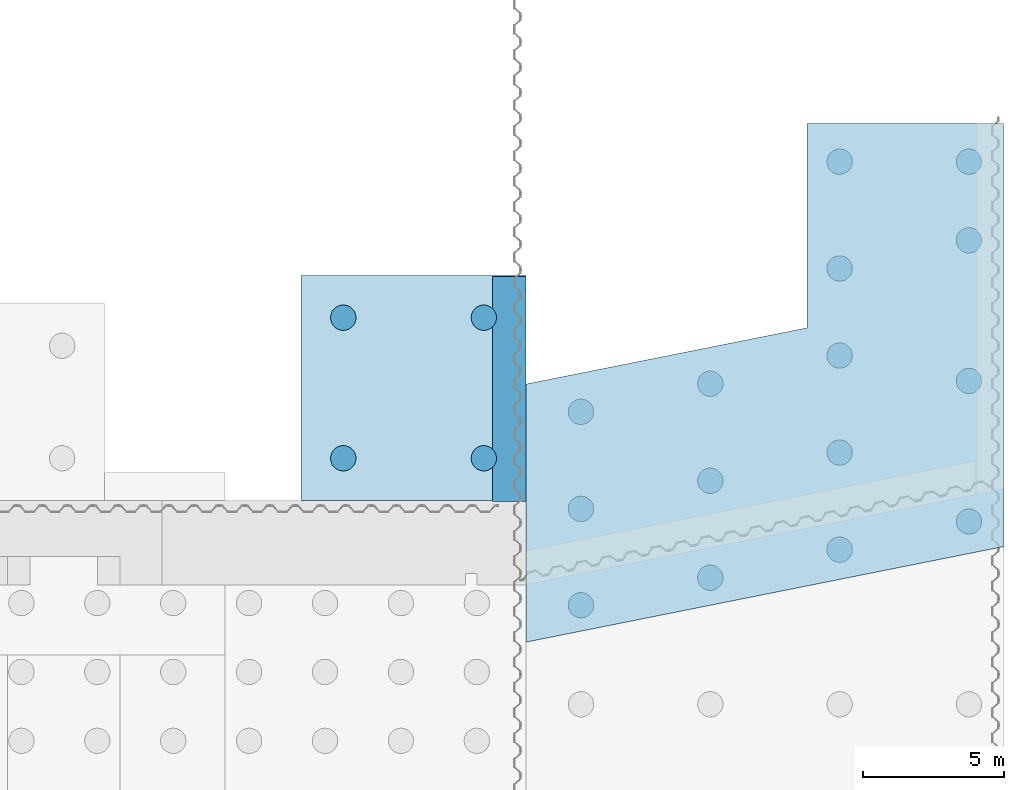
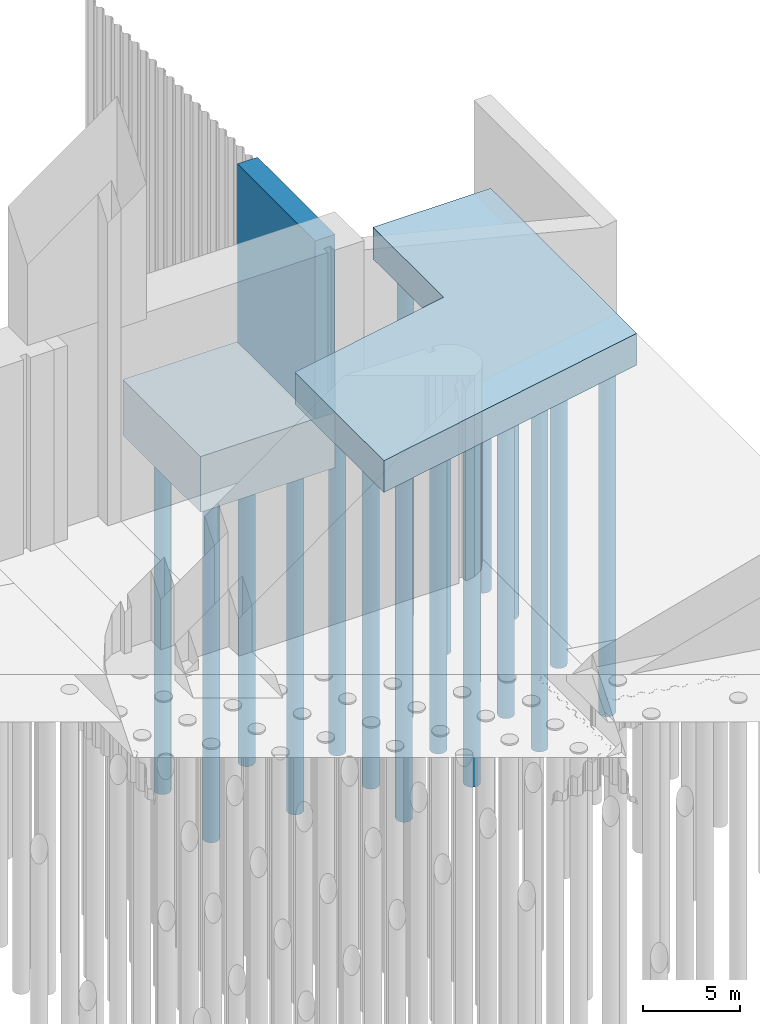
# One storey, part 7 of 9: 7 slabs.
"""IFC2X3 building model written with IfcOpenShell, lengths in millimetres."""

from ifc_helpers import new_model, entity, si_unit, converted_unit, derived_unit, direction, frame, frame_2d, origin, origin_2d_with_axis, place, context, subcontext, project, spatial, polyline, rectangle, circle, outline, extrude, material, type_object, element, save


model = new_model("IFC2X3")

# Units and contexts
model_context = context("Model", 3, precision=0.01, world=origin(), true_north=direction((6.12303176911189e-17, 1.0)))
body_context = subcontext(model_context, "Body", "Model", "MODEL_VIEW")
ifc_project = project(units=[si_unit("LENGTHUNIT", "METRE", prefix="MILLI"), si_unit("AREAUNIT", "SQUARE_METRE"), si_unit("VOLUMEUNIT", "CUBIC_METRE"), converted_unit("PLANEANGLEUNIT", "DEGREE", entity("IfcRatioMeasure", 0.0174532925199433), si_unit("PLANEANGLEUNIT", "RADIAN"), dimensions=[0, 0, 0, 0, 0, 0, 0]), si_unit("MASSUNIT", "GRAM", prefix="KILO"), derived_unit("MASSDENSITYUNIT", [(si_unit("MASSUNIT", "GRAM", prefix="KILO"), 1), (si_unit("LENGTHUNIT", "METRE"), -3)]), si_unit("TIMEUNIT", "SECOND"), si_unit("FREQUENCYUNIT", "HERTZ"), si_unit("THERMODYNAMICTEMPERATUREUNIT", "DEGREE_CELSIUS"), derived_unit("THERMALTRANSMITTANCEUNIT", [(si_unit("MASSUNIT", "GRAM", prefix="KILO"), 1), (si_unit("THERMODYNAMICTEMPERATUREUNIT", "KELVIN"), -1), (si_unit("TIMEUNIT", "SECOND"), -3)]), derived_unit("VOLUMETRICFLOWRATEUNIT", [(si_unit("LENGTHUNIT", "METRE"), 3), (si_unit("TIMEUNIT", "SECOND"), -1)]), si_unit("ELECTRICCURRENTUNIT", "AMPERE"), si_unit("ELECTRICVOLTAGEUNIT", "VOLT"), si_unit("POWERUNIT", "WATT"), si_unit("FORCEUNIT", "NEWTON", prefix="KILO"), si_unit("ILLUMINANCEUNIT", "LUX"), si_unit("LUMINOUSFLUXUNIT", "LUMEN"), si_unit("LUMINOUSINTENSITYUNIT", "CANDELA"), derived_unit("USERDEFINED", [(si_unit("MASSUNIT", "GRAM", prefix="KILO"), -1), (si_unit("LENGTHUNIT", "METRE"), -2), (si_unit("TIMEUNIT", "SECOND"), 3), (si_unit("LUMINOUSFLUXUNIT", "LUMEN"), 1)]), derived_unit("LINEARVELOCITYUNIT", [(si_unit("LENGTHUNIT", "METRE"), 1), (si_unit("TIMEUNIT", "SECOND"), -1)]), si_unit("PRESSUREUNIT", "PASCAL"), derived_unit("USERDEFINED", [(si_unit("LENGTHUNIT", "METRE"), -2), (si_unit("MASSUNIT", "GRAM", prefix="KILO"), 1), (si_unit("TIMEUNIT", "SECOND"), -2)])], contexts=[model_context])

# Site, building, storey
site_placement = place(None, origin())
site = spatial("IfcSite", under=ifc_project, at=site_placement, Name="Default", CompositionType="ELEMENT")
building_placement = place(site_placement, origin())
building = spatial("IfcBuilding", under=site, at=building_placement, CompositionType="ELEMENT")
storey_placement = place(building_placement, origin())
storey = spatial("IfcBuildingStorey", under=building, at=storey_placement, Name="設計GL", CompositionType="ELEMENT", Elevation=0.0)

# Slabs
ifc_material_1 = material(Name="コンクリート - 現場打ちコンクリート")
slab_type_1 = type_object("IfcSlabType", Name="40401_Co_川裏胸壁(上流)底版", PredefinedType="FLOOR", material=ifc_material_1)
slab_1_placement = place(storey_placement, origin())
element("IfcSlab", 1, at=slab_1_placement, inside=storey, type_object=slab_type_1, Name="40401_Co_川裏胸壁(上流)底版:40401_Co_川裏胸壁(上流)底版", ObjectType="40401_Co_川裏胸壁(上流)底版:40401_Co_川裏胸壁(上流)底版", PredefinedType="FLOOR", context=body_context, shape_type="SweptSolid", body=[
    extrude(rectangle(XDim=8000.00000000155, YDim=8000.00000000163, at=frame_2d((-2.27373675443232e-12, 0.0), x_axis=(1.0, 0.0))), frame((-35111.6198004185, -42792.1243992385, 710.0), z_axis=(0.0, 0.0, 1.0), x_axis=(0.0, -1.0, 0.0)), (0.0, 0.0, 1.0), 3500.0),
])
slab_type_2 = type_object("IfcSlabType", Name="40801_Co_川裏翼壁(上流)底版", PredefinedType="FLOOR", material=ifc_material_1)
slab_2_placement = place(storey_placement, origin())
element("IfcSlab", 2, at=slab_2_placement, inside=storey, type_object=slab_type_2, Name="40801_Co_川裏翼壁(上流)底版:40801_Co_川裏翼壁(上流)底版", ObjectType="40801_Co_川裏翼壁(上流)底版:40801_Co_川裏翼壁(上流)底版", PredefinedType="FLOOR", context=body_context, shape_type="SweptSolid", body=[
    extrude(outline(polyline([(927.915869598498, -9000.0), (10106.1903490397, -9000.0), (6705.81132327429, 8000.0), (-8333.80522771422, 8000.0), (-8333.8052277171, 1000.0), (-1072.30708648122, 1000.0), (927.915869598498, -9000.0)])), frame((-22112.6693092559, -41725.7341331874, 2210.0), z_axis=(0.0, 0.0, 1.0), x_axis=(0.0, -1.0, 0.0)), (0.0, 0.0, 1.0), 2000.0),
])
slab_type_3 = type_object("IfcSlabType", Name="41701_Co_川裏胸壁(上流)側壁", PredefinedType="FLOOR", material=ifc_material_1)
slab_3_placement = place(storey_placement, origin())
element("IfcSlab", 3, at=slab_3_placement, inside=storey, type_object=slab_type_3, Name="41701_Co_川裏胸壁(上流)側壁:41701_Co_川裏胸壁(上流)側壁", ObjectType="41701_Co_川裏胸壁(上流)側壁:41701_Co_川裏胸壁(上流)側壁", PredefinedType="FLOOR", context=body_context, shape_type="SweptSolid", body=[
    extrude(rectangle(XDim=8000.00000000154, YDim=1200.00000000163, at=frame_2d((0.0, 2.1600499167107e-12), x_axis=(1.0, 0.0))), frame((-31712.1441894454, -42822.1389265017, 4210.0), z_axis=(0.0, 0.0, 1.0), x_axis=(0.0, 1.0, 0.0)), (0.0, 0.0, 1.0), 11200.0),
])
slab_type_4 = type_object("IfcSlabType", Name="40801_Co_川裏翼壁(上流)底版", PredefinedType="FLOOR", material=ifc_material_1)
slab_4_placement = place(storey_placement, origin())
element("IfcSlab", 4, at=slab_4_placement, inside=storey, type_object=slab_type_4, Name="40801_Co_川裏翼壁(上流)底版:40801_Co_川裏翼壁(上流)底版", ObjectType="40801_Co_川裏翼壁(上流)底版:40801_Co_川裏翼壁(上流)底版", PredefinedType="FLOOR", context=body_context, shape_type="SweptSolid", body=[
    extrude(outline(polyline([(927.915869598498, -9000.0), (10106.1903490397, -9000.0), (6705.81132327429, 8000.0), (-8333.80522771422, 8000.0), (-8333.8052277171, 1000.0), (-1072.30708648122, 1000.0), (927.915869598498, -9000.0)])), frame((-22112.6693092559, -41725.7341331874, 2210.0), z_axis=(0.0, 0.0, 1.0), x_axis=(0.0, -1.0, 0.0)), (0.0, 0.0, 1.0), 2000.0),
])
slab_type_5 = type_object("IfcSlabType", Name="40801_Co_川裏翼壁(上流)底版", PredefinedType="FLOOR", material=ifc_material_1)
slab_5_placement = place(storey_placement, origin())
element("IfcSlab", 5, at=slab_5_placement, inside=storey, type_object=slab_type_5, Name="40801_Co_川裏翼壁(上流)底版:40801_Co_川裏翼壁(上流)底版", ObjectType="40801_Co_川裏翼壁(上流)底版:40801_Co_川裏翼壁(上流)底版", PredefinedType="FLOOR", context=body_context, shape_type="SweptSolid", body=[
    extrude(outline(polyline([(927.915869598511, -9000.0), (10106.1903490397, -9000.0), (6705.8113232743, 8000.0), (-8333.80522771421, 8000.0), (-8333.80522771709, 1000.0), (-1072.30708648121, 1000.0), (927.915869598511, -9000.0)])), frame((-22112.6693092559, -41725.7341331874, 2210.0), z_axis=(0.0, 0.0, 1.0), x_axis=(0.0, -1.0, 0.0)), (0.0, 0.0, 1.0), 2000.0),
])
ifc_material_2 = material(Name="ベタ基礎")
slab_type_6 = type_object("IfcSlabType", Name="70401.dwg", PredefinedType="FLOOR", material=ifc_material_2)
slab_6_placement = place(storey_placement, origin())
element("IfcSlab", 6, at=slab_6_placement, inside=storey, type_object=slab_type_6, Name="70401.dwg:70401.dwg", ObjectType="70401.dwg:70401.dwg", PredefinedType="FLOOR", context=body_context, shape_type="SweptSolid", body=[
    extrude(circle(Radius=450.0, at=origin_2d_with_axis()), frame((-37612.6693071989, -45292.3079312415, -21190.0)), (0.0, 0.0, 1.0), 22000.0),
    extrude(circle(Radius=450.0, at=origin_2d_with_axis()), frame((-32612.6693071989, -45292.3079312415, -21190.0)), (0.0, 0.0, 1.0), 22000.0),
    extrude(circle(Radius=450.0, at=origin_2d_with_axis()), frame((-32612.6693071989, -40292.3079312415, -21190.0)), (0.0, 0.0, 1.0), 22000.0),
    extrude(circle(Radius=450.0, at=origin_2d_with_axis()), frame((-37612.6693071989, -40292.3079312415, -21190.0)), (0.0, 0.0, 1.0), 22000.0),
])
slab_type_7 = type_object("IfcSlabType", Name="70801.dwg", PredefinedType="FLOOR", material=ifc_material_2)
slab_7_placement = place(storey_placement, origin())
element("IfcSlab", 7, at=slab_7_placement, inside=storey, type_object=slab_type_7, Name="70801.dwg:70801.dwg", ObjectType="70801.dwg:70801.dwg", PredefinedType="FLOOR", context=body_context, shape_type="SweptSolid", body=[
    extrude(circle(Radius=450.0, at=origin_2d_with_axis()), frame((-19958.704214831, -34741.9289054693, -19690.0)), (0.0, 0.0, 1.0), 22000.0),
    extrude(circle(Radius=450.0, at=origin_2d_with_axis()), frame((-29158.6698828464, -50518.2336331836, -19690.0)), (0.0, 0.0, 1.0), 22000.0),
    extrude(circle(Radius=450.0, at=origin_2d_with_axis()), frame((-24558.6698828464, -49542.0665787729, -19690.0)), (0.0, 0.0, 1.0), 22000.0),
    extrude(circle(Radius=450.0, at=origin_2d_with_axis()), frame((-19958.6698828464, -48542.0020347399, -19690.0)), (0.0, 0.0, 1.0), 22000.0),
    extrude(circle(Radius=450.0, at=origin_2d_with_axis()), frame((-15358.6698828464, -47541.9374907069, -19690.0)), (0.0, 0.0, 1.0), 22000.0),
    extrude(circle(Radius=450.0, at=origin_2d_with_axis()), frame((-15358.704214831, -34741.9289054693, -19690.0)), (0.0, 0.0, 1.0), 22000.0),
    extrude(circle(Radius=450.0, at=origin_2d_with_axis()), frame((-15358.704214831, -37541.9374907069, -19690.0)), (0.0, 0.0, 1.0), 22000.0),
    extrude(circle(Radius=450.0, at=origin_2d_with_axis()), frame((-19958.704214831, -38542.0020347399, -19690.0)), (0.0, 0.0, 1.0), 22000.0),
    extrude(circle(Radius=450.0, at=origin_2d_with_axis()), frame((-19958.6698828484, -41639.4186360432, -19690.0)), (0.0, 0.0, 1.0), 22000.0),
    extrude(circle(Radius=450.0, at=origin_2d_with_axis()), frame((-15358.6698828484, -42541.9374905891, -19690.0)), (0.0, 0.0, 1.0), 22000.0),
    extrude(circle(Radius=450.0, at=origin_2d_with_axis()), frame((-19958.6698828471, -45090.7103353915, -19690.0)), (0.0, 0.0, 1.0), 22000.0),
    extrude(circle(Radius=450.0, at=origin_2d_with_axis()), frame((-24558.6698828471, -46090.7748794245, -19690.0)), (0.0, 0.0, 1.0), 22000.0),
    extrude(circle(Radius=450.0, at=origin_2d_with_axis()), frame((-29158.6698828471, -47090.8394234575, -19690.0)), (0.0, 0.0, 1.0), 22000.0),
    extrude(circle(Radius=450.0, at=origin_2d_with_axis()), frame((-29158.6698828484, -43639.5477241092, -19690.0)), (0.0, 0.0, 1.0), 22000.0),
    extrude(circle(Radius=450.0, at=origin_2d_with_axis()), frame((-24558.6698828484, -42639.4831800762, -19690.0)), (0.0, 0.0, 1.0), 22000.0),
])

save(model, "model.ifc")
